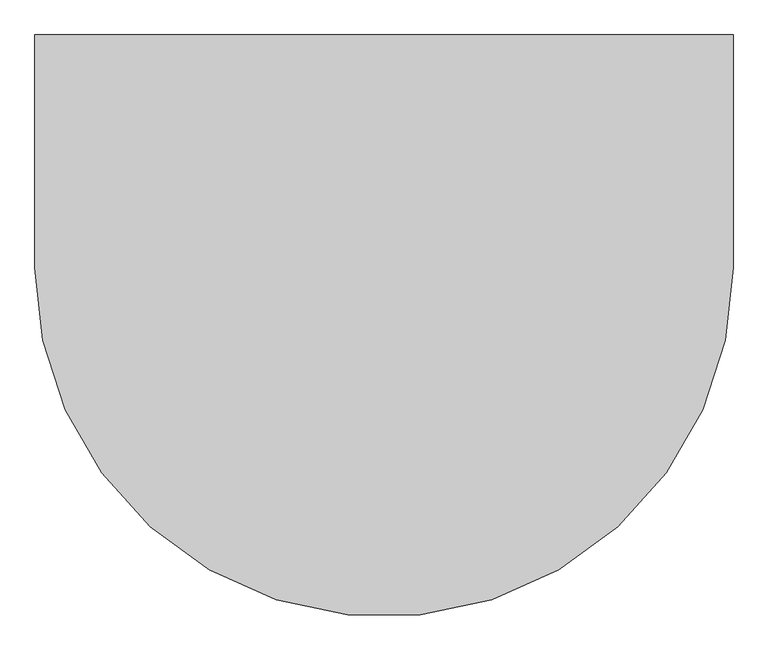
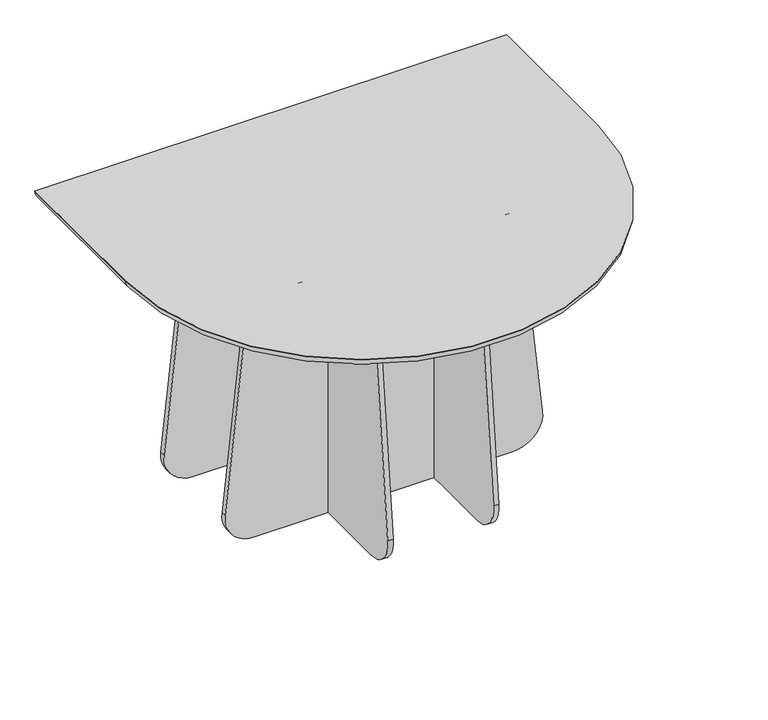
"""IFC4 building model written with IfcOpenShell, lengths in millimetres: furniture geometry, Lundbergs Möbler - Funghi Mèta - Table - Half Moon - 120 - H73 : Lundbergs Möbler - Funghi Mèta - Table - Half Moon - 120 - H73."""

from ifc_helpers import new_model, si_unit, point, frame, frame_2d, origin, place, context, project, spatial, polyline, circle_curve, ellipse_curve, trimmed, segment, composite_curve, outline, extrude, source, transform, mapped, element, save
from ifc_brep_helpers import plane_surface, cylinder_surface, revolved_surface, advanced_brep


def furniture_634e2856(model_context):
    return source(origin(), model_context, "Body", "SolidModel", [
        extrude(outline(composite_curve([segment(polyline([(328.9885604, 0.0), (-328.9885604, 0.0)]), True, "CONTINUOUS"), segment(trimmed(circle_curve(frame_2d((-328.9885604, 75.0)), 75.0), [point((-328.9885604, 0.0))], [point((-403.5717494, 82.8960696))], False, "CARTESIAN"), True, "CONTINUOUS"), segment(polyline([(-403.5717494, 82.8960696), (-338.2393517, 700.000378), (338.2393517, 700.000378), (338.722675, 695.435095), (338.722675, 0.6343694)]), True, "CONTINUOUS"), segment(trimmed(circle_curve(frame_2d((328.9885604, 75.0)), 75.0), [point((338.722675, 0.6343694))], [point((328.9885604, 0.0))], False, "CARTESIAN"), True, "CONTINUOUS")], self_intersect=False)), frame((-141.1465138, 0.0, 0.0), z_axis=(1.0, 0.0, 0.0), x_axis=(0.0, 1.0, 0.0)), (0.0, 0.0, 1.0), 13.4999997),
        extrude(outline(composite_curve([segment(polyline([(328.9885604, 0.0), (-328.9885604, 0.0)]), True, "CONTINUOUS"), segment(trimmed(circle_curve(frame_2d((-328.9885604, 75.0)), 75.0), [point((-328.9885604, 0.0))], [point((-403.5717494, 82.8960696))], False, "CARTESIAN"), True, "CONTINUOUS"), segment(polyline([(-403.5717494, 82.8960696), (-338.2393517, 700.000378), (338.2393517, 700.000378), (338.722675, 695.435095), (338.722675, 0.6343694)]), True, "CONTINUOUS"), segment(trimmed(circle_curve(frame_2d((328.9885604, 75.0)), 75.0), [point((338.722675, 0.6343694))], [point((328.9885604, 0.0))], False, "CARTESIAN"), True, "CONTINUOUS")], self_intersect=False)), frame((127.6465142, 0.0, 0.0), z_axis=(1.0, 0.0, 0.0), x_axis=(0.0, 1.0, 0.0)), (0.0, 0.0, 1.0), 13.4999997),
        advanced_brep(
        [(599.995281, 356.1679038, 723.9631611), (599.995281, 356.1679038, 722.4061073), (577.6933152, 356.1679038, 700.1041414), (-577.6933152, 356.1679038, 700.1041414), (-599.995281, 356.1679038, 722.4061073), (-599.995281, 356.1679038, 723.9631611), (-599.995281, -43.6612877, 723.9631611), (599.995281, -43.6612877, 723.9631611), (599.995281, -43.6612877, 722.4061073), (577.6933152, -43.6612877, 700.1041414), (-577.6933152, -43.6612877, 700.1041414), (-599.995281, -43.6612877, 722.4061073)],
        [
            (0, 1),
            (1, 2, circle_curve(frame((577.6933152, 356.1679038, 722.4061073), z_axis=(0.0, 1.0, 0.0), x_axis=(1.0, 0.0, 0.0)), 22.3019658)),
            (2, 3),
            (3, 4, circle_curve(frame((-577.6933152, 356.1679038, 722.4061073), z_axis=(0.0, 1.0, 0.0), x_axis=(-1.0, 0.0, 0.0)), 22.3019658)),
            (4, 5),
            (5, 0),
            (5, 6),
            (6, 7, circle_curve(frame((0.0, -43.6612877, 723.9631611), z_axis=(0.0, 0.0, 1.0), x_axis=(1.0, 0.0, 0.0)), 599.995281)),
            (7, 0),
            (7, 8),
            (8, 1),
            (8, 9, circle_curve(frame((577.6933152, -43.6612877, 722.4061073), z_axis=(0.0, 1.0, 0.0), x_axis=(1.0, 0.0, 0.0)), 22.3019658)),
            (9, 2),
            (9, 10, circle_curve(frame((0.0, -43.6612877, 700.1041414), z_axis=(0.0, 0.0, -1.0), x_axis=(1.0, 0.0, 0.0)), 577.6933152)),
            (10, 3),
            (6, 11),
            (11, 8, circle_curve(frame((0.0, -43.6612877, 722.4061073), z_axis=(0.0, 0.0, 1.0), x_axis=(1.0, 0.0, 0.0)), 599.995281)),
            (11, 10, circle_curve(frame((-577.6933152, -43.6612877, 722.4061073), z_axis=(0.0, -1.0, 0.0), x_axis=(-1.0, 0.0, 0.0)), 22.3019658)),
            (4, 11),
        ],
        [
            plane_surface(frame((599.995281, 356.1679038, 0.0), z_axis=(0.0, 1.0, 0.0), x_axis=(0.0, 0.0, 1.0))),
            plane_surface(frame((412.3534858, 356.1679038, 723.9631611), z_axis=(0.0, 0.0, 1.0), x_axis=(0.0, -1.0, 0.0))),
            plane_surface(frame((599.995281, 356.1679038, 723.9631611), z_axis=(1.0, 0.0, 0.0), x_axis=(0.0, -1.0, 0.0))),
            cylinder_surface(frame((577.6933152, 356.1679038, 722.4061073), z_axis=(0.0, 1.0, 0.0), x_axis=(1.0, 0.0, 0.0)), 22.3019658),
            plane_surface(frame((577.6933152, 356.1679038, 700.1041414), z_axis=(0.0, 0.0, -1.0), x_axis=(0.0, -1.0, 0.0))),
            cylinder_surface(frame((0.0, -43.6612877, 0.0), z_axis=(0.0, 0.0, -1.0), x_axis=(1.0, 0.0, 0.0)), 599.995281),
            revolved_surface(trimmed(ellipse_curve(frame((577.6933152, -43.6612877, 722.4061073), z_axis=(0.0, 1.0, 0.0), x_axis=(1.0, 0.0, 0.0)), 22.3019658, 22.3019658), [point((599.995281, -43.6612877, 722.4061073))], [point((577.6933152, -43.6612877, 700.1041414))], True, "CARTESIAN"), (0.0, -43.6612877, 0.0), (0.0, 0.0, -1.0)),
            plane_surface(frame((-599.995281, -43.6612877, 723.9631611), z_axis=(-1.0, 0.0, 0.0), x_axis=(0.0, 1.0, 0.0))),
            cylinder_surface(frame((-577.6933152, -43.6612877, 722.4061073), z_axis=(0.0, -1.0, 0.0), x_axis=(-1.0, 0.0, 0.0)), 22.3019658),
        ],
        [
            (0, [[1, 2, 3, 4, 5, 6]]),
            (1, [[-6, 7, 8, 9]]),
            (2, [[-1, -9, 10, 11]]),
            (3, [[-2, -11, 12, 13]]),
            (4, [[-3, -13, 14, 15]]),
            (5, [[-8, 16, 17, -10]]),
            (6, [[-12, -17, 18, -14]]),
            (7, [[-7, -5, 19, -16]]),
            (8, [[-15, -18, -19, -4]]),
        ],
    ),
        extrude(outline(composite_curve([segment(trimmed(circle_curve(frame_2d((698.3873965, 196.2845895)), 8.5), [point((689.8873965, 196.2845895))], [point((698.3873965, 204.7845895))], False, "CARTESIAN"), True, "CONTINUOUS"), segment(polyline([(698.3873965, 204.7845895), (700.000378, 204.7845895), (700.000378, -204.7845895), (698.3873965, -204.7845895)]), True, "CONTINUOUS"), segment(trimmed(circle_curve(frame_2d((698.3873965, -196.2845895)), 8.5), [point((698.3873965, -204.7845895))], [point((689.8873965, -196.2845895))], False, "CARTESIAN"), True, "CONTINUOUS"), segment(polyline([(689.8873965, -196.2845895), (689.8873965, 196.2845895)]), True, "CONTINUOUS")], self_intersect=False)), frame((0.0, 242.5896085, 0.0), z_axis=(0.0, 1.0, 0.0), x_axis=(0.0, 0.0, 1.0)), (0.0, 0.0, 1.0), 40.0000216),
        extrude(outline(composite_curve([segment(trimmed(circle_curve(frame_2d((-196.2845895, 698.3873965)), 8.5), [point((-196.2845895, 689.8873965))], [point((-204.7845895, 698.3873965))], False, "CARTESIAN"), True, "CONTINUOUS"), segment(polyline([(-204.7845895, 698.3873965), (-204.7845895, 700.000378), (204.7845895, 700.000378), (204.7845895, 698.3873965)]), True, "CONTINUOUS"), segment(trimmed(circle_curve(frame_2d((196.2845895, 698.3873965)), 8.5), [point((204.7845895, 698.3873965))], [point((196.2845895, 689.8873965))], False, "CARTESIAN"), True, "CONTINUOUS"), segment(polyline([(196.2845895, 689.8873965), (-196.2845895, 689.8873965)]), True, "CONTINUOUS")], self_intersect=False)), frame((242.5896085, 0.0, 0.0), z_axis=(1.0, 0.0, 0.0), x_axis=(0.0, 1.0, 0.0)), (0.0, 0.0, 1.0), 40.0000216),
        extrude(outline(composite_curve([segment(trimmed(circle_curve(frame_2d((-196.2845895, 698.3873965)), 8.5), [point((-196.2845895, 689.8873965))], [point((-204.7845895, 698.3873965))], False, "CARTESIAN"), True, "CONTINUOUS"), segment(polyline([(-204.7845895, 698.3873965), (-204.7845895, 700.000378), (204.7845895, 700.000378), (204.7845895, 698.3873965)]), True, "CONTINUOUS"), segment(trimmed(circle_curve(frame_2d((196.2845895, 698.3873965)), 8.5), [point((204.7845895, 698.3873965))], [point((196.2845895, 689.8873965))], False, "CARTESIAN"), True, "CONTINUOUS"), segment(polyline([(196.2845895, 689.8873965), (-196.2845895, 689.8873965)]), True, "CONTINUOUS")], self_intersect=False)), frame((-282.5896301, 0.0, 0.0), z_axis=(1.0, 0.0, 0.0), x_axis=(0.0, 1.0, 0.0)), (0.0, 0.0, 1.0), 40.0000216),
        extrude(outline(composite_curve([segment(trimmed(circle_curve(frame_2d((698.3873965, 196.2845895)), 8.5), [point((689.8873965, 196.2845895))], [point((698.3873965, 204.7845895))], False, "CARTESIAN"), True, "CONTINUOUS"), segment(polyline([(698.3873965, 204.7845895), (700.000378, 204.7845895), (700.000378, -204.7845895), (698.3873965, -204.7845895)]), True, "CONTINUOUS"), segment(trimmed(circle_curve(frame_2d((698.3873965, -196.2845895)), 8.5), [point((698.3873965, -204.7845895))], [point((689.8873965, -196.2845895))], False, "CARTESIAN"), True, "CONTINUOUS"), segment(polyline([(689.8873965, -196.2845895), (689.8873965, 196.2845895)]), True, "CONTINUOUS")], self_intersect=False)), frame((0.0, -282.5896301, 0.0), z_axis=(0.0, 1.0, 0.0), x_axis=(0.0, 0.0, 1.0)), (0.0, 0.0, 1.0), 40.0000216),
        extrude(outline(composite_curve([segment(trimmed(circle_curve(frame_2d((75.0, -328.9885604)), 75.0), [point((82.8960696, -403.5717494))], [point((0.0, -328.9885604))], False, "CARTESIAN"), True, "CONTINUOUS"), segment(polyline([(0.0, -328.9885604), (0.0, 328.9885604)]), True, "CONTINUOUS"), segment(trimmed(circle_curve(frame_2d((75.0, 328.9885604)), 75.0), [point((0.0, 328.9885604))], [point((82.8960696, 403.5717494))], False, "CARTESIAN"), True, "CONTINUOUS"), segment(polyline([(82.8960696, 403.5717494), (700.000378, 338.2393517), (700.000378, -338.2393517), (82.8960696, -403.5717494)]), True, "CONTINUOUS")], self_intersect=False)), frame((0.0, 127.6465142, 0.0), z_axis=(0.0, 1.0, 0.0), x_axis=(0.0, 0.0, 1.0)), (0.0, 0.0, 1.0), 13.4999997),
        extrude(outline(composite_curve([segment(trimmed(circle_curve(frame_2d((75.0, -328.9885604)), 75.0), [point((82.8960696, -403.5717494))], [point((0.0, -328.9885604))], False, "CARTESIAN"), True, "CONTINUOUS"), segment(polyline([(0.0, -328.9885604), (0.0, 328.9885604)]), True, "CONTINUOUS"), segment(trimmed(circle_curve(frame_2d((75.0, 328.9885604)), 75.0), [point((0.0, 328.9885604))], [point((82.8960696, 403.5717494))], False, "CARTESIAN"), True, "CONTINUOUS"), segment(polyline([(82.8960696, 403.5717494), (700.000378, 338.2393517), (700.000378, -338.2393517), (82.8960696, -403.5717494)]), True, "CONTINUOUS")], self_intersect=False)), frame((0.0, -141.1465138, 0.0), z_axis=(0.0, 1.0, 0.0), x_axis=(0.0, 0.0, 1.0)), (0.0, 0.0, 1.0), 13.4999997),
    ])


if __name__ == "__main__":
    model = new_model("IFC4")
    model_context = context("Model", 3, world=origin())
    ifc_project = project(units=[si_unit("LENGTHUNIT", "METRE", prefix="MILLI")], contexts=[model_context])
    site = spatial("IfcSite", under=ifc_project)
    building = spatial("IfcBuilding", under=site)
    placement = place(None, origin())
    furniture_shape = furniture_634e2856(model_context)
    element("IfcFurniture", 1, ObjectType="Lundbergs Möbler - Funghi Mèta - Table - Half Moon - 120 - H73 : Lundbergs Möbler - Funghi Mèta - Table - Half Moon - 120 - H73", at=placement, inside=building, context=model_context, shape_type="MappedRepresentation", body=[
        mapped(furniture_shape, transform((0.0, 0.0, 0.0), x_axis=(1.0, 0.0, 0.0), y_axis=(0.0, 1.0, 0.0), z_axis=(0.0, 0.0, 1.0))),
    ])
    save(model, "model.ifc")
